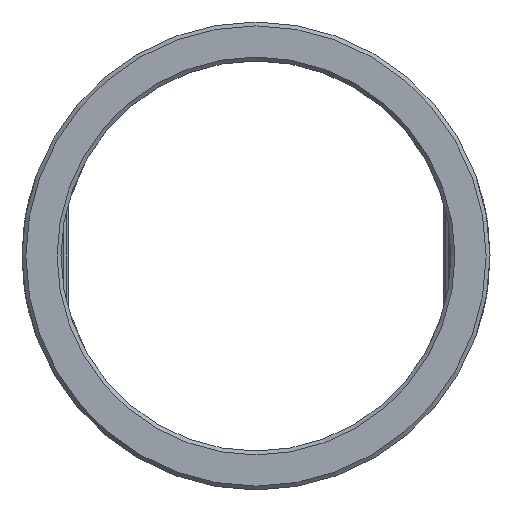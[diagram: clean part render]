
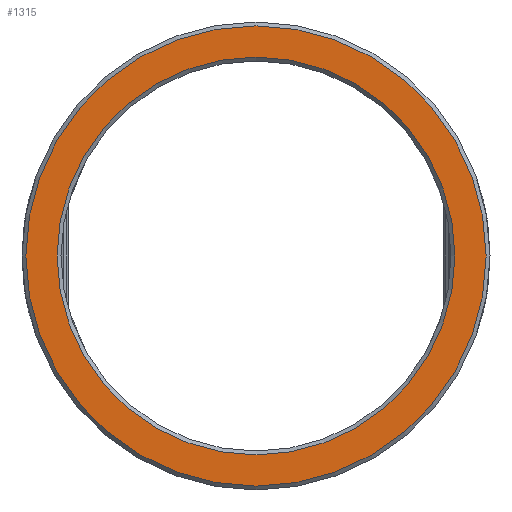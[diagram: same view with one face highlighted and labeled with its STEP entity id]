
A CAD part, left-side view. The second image highlights one B-rep face of the part: STEP entity #1315.
In plain terms, the highlighted planar face has unit normal (-1, 0, 0).
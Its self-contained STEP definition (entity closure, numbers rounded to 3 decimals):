
#1284=CARTESIAN_POINT('',(-9.875,5.1,0.));
#1285=VERTEX_POINT('',#1284);
#1286=CARTESIAN_POINT('',(-9.875,0.0,0.0));
#1287=DIRECTION('',(-1.0,0.0,0.0));
#1288=DIRECTION('',(0.0,-1.0,0.0));
#1289=AXIS2_PLACEMENT_3D('',#1286,#1287,#1288);
#1290=CIRCLE('',#1289,5.1);
#1291=EDGE_CURVE('',#1285,#1285,#1290,.T.);
#1296=CARTESIAN_POINT('',(-9.875,5.5,0.0));
#1297=DIRECTION('',(-1.0,0.0,0.0));
#1298=DIRECTION('',(0.0,0.0,1.0));
#1299=AXIS2_PLACEMENT_3D('',#1296,#1297,#1298);
#1300=PLANE('',#1299);
#1301=CARTESIAN_POINT('',(-9.875,5.9,0.));
#1302=VERTEX_POINT('',#1301);
#1303=CARTESIAN_POINT('',(-9.875,0.0,0.0));
#1304=DIRECTION('',(1.0,0.0,0.0));
#1305=DIRECTION('',(0.0,-1.0,0.0));
#1306=AXIS2_PLACEMENT_3D('',#1303,#1304,#1305);
#1307=CIRCLE('',#1306,5.9);
#1308=EDGE_CURVE('',#1302,#1302,#1307,.T.);
#1309=ORIENTED_EDGE('',*,*,#1308,.F.);
#1310=EDGE_LOOP('',(#1309));
#1311=FACE_OUTER_BOUND('',#1310,.T.);
#1312=ORIENTED_EDGE('',*,*,#1291,.F.);
#1313=EDGE_LOOP('',(#1312));
#1314=FACE_BOUND('',#1313,.T.);
#1315=ADVANCED_FACE('',(#1311,#1314),#1300,.T.);
